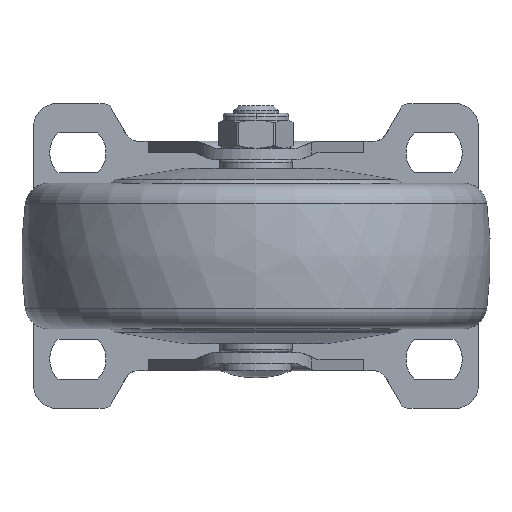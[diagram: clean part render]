
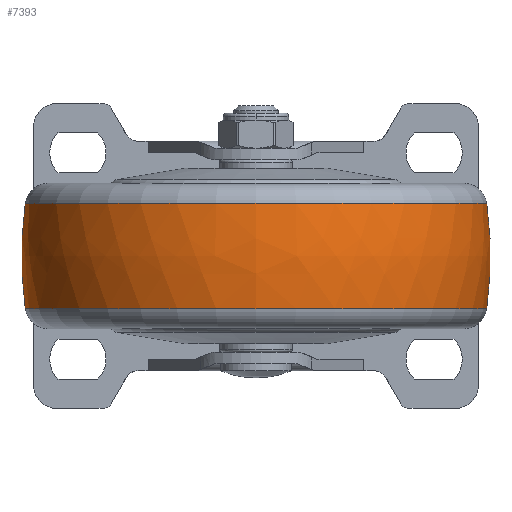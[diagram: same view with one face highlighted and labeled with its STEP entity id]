
A CAD part, front view. The second image highlights one B-rep face of the part: STEP entity #7393.
In plain terms, the highlighted free-form (B-spline) face has degree [3, 3] with [7, 4] control points.
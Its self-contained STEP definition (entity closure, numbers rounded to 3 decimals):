
#6704=CARTESIAN_POINT('',(-11.2,0.,0.));
#6705=DIRECTION('',(-1.,0.,0.));
#6706=DIRECTION('',(0.,1.,0.));
#6707=AXIS2_PLACEMENT_3D('',#6704,#6705,#6706);
#6719=CARTESIAN_POINT('',(0.,-30.,0.));
#6720=DIRECTION('',(0.,0.,1.));
#6721=DIRECTION('',(0.14,0.99,0.));
#6722=AXIS2_PLACEMENT_3D('',#6719,#6720,#6721);
#6724=CARTESIAN_POINT('',(0.,30.,0.));
#6725=DIRECTION('',(0.,0.,-1.));
#6726=DIRECTION('',(0.14,-0.99,0.));
#6727=AXIS2_PLACEMENT_3D('',#6724,#6725,#6726);
#6729=CARTESIAN_POINT('',(11.2,0.,0.));
#6730=DIRECTION('',(-1.,0.,0.));
#6731=DIRECTION('',(0.,1.,0.));
#6732=AXIS2_PLACEMENT_3D('',#6729,#6730,#6731);
#6967=CARTESIAN_POINT('',(11.2,49.212,0.));
#6969=VERTEX_POINT('',#6967);
#6970=CARTESIAN_POINT('',(-11.2,49.212,0.));
#6971=VERTEX_POINT('',#6970);
#7015=CARTESIAN_POINT('',(11.2,-49.212,
0.));
#7017=VERTEX_POINT('',#7015);
#7018=CARTESIAN_POINT('',(-11.2,-49.212,
0.));
#7019=VERTEX_POINT('',#7018);
#7357=CARTESIAN_POINT('',(-11.645,-49.051,
3.086));
#7358=CARTESIAN_POINT('',(-3.909,-50.187,
3.157));
#7359=CARTESIAN_POINT('',(3.909,-50.187,3.157));
#7360=CARTESIAN_POINT('',(11.645,-49.051,3.086));
#7361=CARTESIAN_POINT('',(-11.645,-50.95,
-27.1));
#7362=CARTESIAN_POINT('',(-3.909,-52.13,
-27.727));
#7363=CARTESIAN_POINT('',(3.909,-52.13,
-27.727));
#7364=CARTESIAN_POINT('',(11.645,-50.95,
-27.1));
#7365=CARTESIAN_POINT('',(-11.645,-30.246,
-49.148));
#7366=CARTESIAN_POINT('',(-3.909,-30.946,
-50.286));
#7367=CARTESIAN_POINT('',(3.909,-30.946,
-50.286));
#7368=CARTESIAN_POINT('',(11.645,-30.246,
-49.148));
#7369=CARTESIAN_POINT('',(-11.645,0.,
-49.148));
#7370=CARTESIAN_POINT('',(-3.909,0.,
-50.286));
#7371=CARTESIAN_POINT('',(3.909,0.,-50.286));
#7372=CARTESIAN_POINT('',(11.645,0.,
-49.148));
#7373=CARTESIAN_POINT('',(-11.645,30.246,
-49.148));
#7374=CARTESIAN_POINT('',(-3.909,30.946,
-50.286));
#7375=CARTESIAN_POINT('',(3.909,30.946,-50.286));
#7376=CARTESIAN_POINT('',(11.645,30.246,-49.148));
#7377=CARTESIAN_POINT('',(-11.645,50.95,
-27.1));
#7378=CARTESIAN_POINT('',(-3.909,52.13,
-27.727));
#7379=CARTESIAN_POINT('',(3.909,52.13,-27.727));
#7380=CARTESIAN_POINT('',(11.645,50.95,-27.1));
#7381=CARTESIAN_POINT('',(-11.645,49.051,3.086));
#7382=CARTESIAN_POINT('',(-3.909,50.187,3.157));
#7383=CARTESIAN_POINT('',(3.909,50.187,3.157));
#7384=CARTESIAN_POINT('',(11.645,49.051,3.086));
#7385=(BOUNDED_SURFACE()B_SPLINE_SURFACE(3,3,((#7357,#7358,#7359,#7360),(#7361,
#7362,#7363,#7364),(#7365,#7366,#7367,#7368),(#7369,#7370,#7371,#7372),(#7373,
#7374,#7375,#7376),(#7377,#7378,#7379,#7380),(#7381,#7382,#7383,#7384)),
.UNSPECIFIED.,.F.,.F.,.F.)B_SPLINE_SURFACE_WITH_KNOTS((4,3,4),(4,4),(0.,1.,
2.),(0.,1.),.UNSPECIFIED.)GEOMETRIC_REPRESENTATION_ITEM()RATIONAL_B_SPLINE_SURFACE(((1.194,1.185,1.185,1.194),(
0.943,0.936,0.936,0.943),(
0.943,0.936,0.936,0.943),(
1.194,1.185,1.185,1.194),(
0.943,0.936,0.936,0.943),(
0.943,0.936,0.936,0.943),(
1.194,1.185,1.185,1.194)))REPRESENTATION_ITEM('')SURFACE());
#7386=ORIENTED_EDGE('',*,*,#7347,.T.);
#7387=ORIENTED_EDGE('',*,*,#7300,.T.);
#7388=ORIENTED_EDGE('',*,*,#7351,.F.);
#7390=ORIENTED_EDGE('',*,*,#7389,.F.);
#7391=EDGE_LOOP('',(#7386,#7387,#7388,#7390));
#7392=FACE_OUTER_BOUND('',#7391,.F.);
#6708=CIRCLE('',#6707,49.212);
#6723=CIRCLE('',#6722,80.);
#6728=CIRCLE('',#6727,80.);
#6733=CIRCLE('',#6732,49.212);
#7300=EDGE_CURVE('',#6971,#7019,#6708,.T.);
#7347=EDGE_CURVE('',#6969,#6971,#6723,.T.);
#7351=EDGE_CURVE('',#7017,#7019,#6728,.T.);
#7389=EDGE_CURVE('',#6969,#7017,#6733,.T.);
#7393=ADVANCED_FACE('',(#7392),#7385,.T.);
